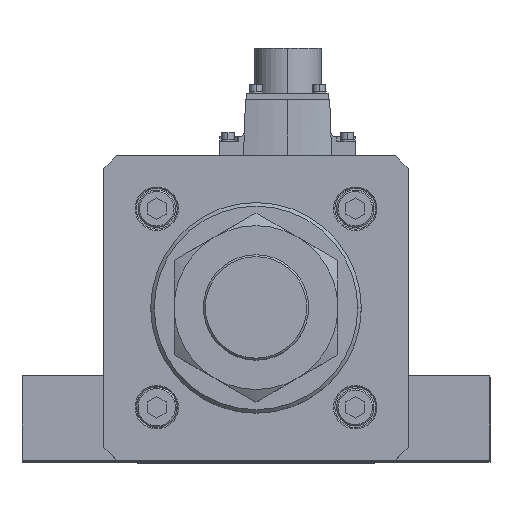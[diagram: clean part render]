
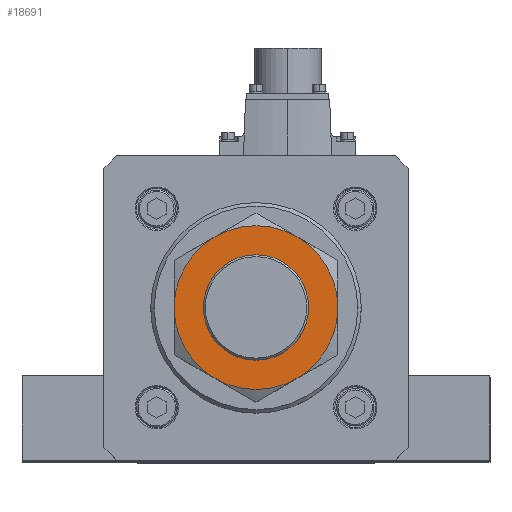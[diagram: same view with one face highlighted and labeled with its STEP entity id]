
A CAD part, top view. The second image highlights one B-rep face of the part: STEP entity #18691.
In plain terms, the highlighted planar face has unit normal (0, 0, 1).
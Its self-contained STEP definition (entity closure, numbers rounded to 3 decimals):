
#1370 = CARTESIAN_POINT ( 'NONE',  ( 0., 0., 27. ) ) ;
#1588 = DIRECTION ( 'NONE',  ( 1., 0., 0. ) ) ;
#1656 = DIRECTION ( 'NONE',  ( -1., 0., 0. ) ) ;
#2298 = VERTEX_POINT ( 'NONE', #36507 ) ;
#2450 = DIRECTION ( 'NONE',  ( 0., 0., -1. ) ) ;
#2922 = DIRECTION ( 'NONE',  ( -1., 0., 0. ) ) ;
#3208 = VERTEX_POINT ( 'NONE', #25170 ) ;
#3801 = PLANE ( 'NONE',  #13405 ) ;
#4415 = CARTESIAN_POINT ( 'NONE',  ( 0., 0., 27. ) ) ;
#4751 = CIRCLE ( 'NONE', #35648, 22.5 ) ;
#4798 = CIRCLE ( 'NONE', #20198, 35. ) ;
#5333 = DIRECTION ( 'NONE',  ( 0., 0., 1. ) ) ;
#5786 = DIRECTION ( 'NONE',  ( 0., 0., -1. ) ) ;
#6560 = CIRCLE ( 'NONE', #29074, 35. ) ;
#6989 = EDGE_CURVE ( 'NONE', #28562, #7024, #9219, .T. ) ;
#7024 = VERTEX_POINT ( 'NONE', #26561 ) ;
#7150 = DIRECTION ( 'NONE',  ( 0., 0., 1. ) ) ;
#8490 = AXIS2_PLACEMENT_3D ( 'NONE', #25427, #25164, #1656 ) ;
#8491 = CARTESIAN_POINT ( 'NONE',  ( 0., 0., 27. ) ) ;
#9219 = CIRCLE ( 'NONE', #35896, 35. ) ;
#10288 = DIRECTION ( 'NONE',  ( 0., 0., 1. ) ) ;
#10477 = DIRECTION ( 'NONE',  ( 0., 0., -1. ) ) ;
#10603 = CARTESIAN_POINT ( 'NONE',  ( 0., 0., 27. ) ) ;
#10622 = ORIENTED_EDGE ( 'NONE', *, *, #26864, .F. ) ;
#11230 = CARTESIAN_POINT ( 'NONE',  ( 0., 0., 27. ) ) ;
#13405 = AXIS2_PLACEMENT_3D ( 'NONE', #1370, #10288, #16248 ) ;
#13539 = EDGE_LOOP ( 'NONE', ( #35560, #20894 ) ) ;
#13992 = DIRECTION ( 'NONE',  ( 1., 0., 0. ) ) ;
#14338 = CIRCLE ( 'NONE', #17176, 22.5 ) ;
#14661 = EDGE_LOOP ( 'NONE', ( #22094, #33001, #10622, #25059, #21276, #36307 ) ) ;
#15016 = FACE_OUTER_BOUND ( 'NONE', #14661, .T. ) ;
#16036 = CARTESIAN_POINT ( 'NONE',  ( -17.5, 30.311, 27. ) ) ;
#16248 = DIRECTION ( 'NONE',  ( 1., 0., 0. ) ) ;
#17079 = DIRECTION ( 'NONE',  ( 0., 0., -1. ) ) ;
#17176 = AXIS2_PLACEMENT_3D ( 'NONE', #26005, #5333, #13992 ) ;
#18691 = ADVANCED_FACE ( 'NONE', ( #15016, #34469 ), #3801, .T. ) ;
#19681 = CARTESIAN_POINT ( 'NONE',  ( -22.5, 0., 27. ) ) ;
#19769 = CARTESIAN_POINT ( 'NONE',  ( 0., 0., 27. ) ) ;
#20196 = CIRCLE ( 'NONE', #25356, 35. ) ;
#20198 = AXIS2_PLACEMENT_3D ( 'NONE', #11230, #2450, #31665 ) ;
#20361 = EDGE_CURVE ( 'NONE', #3208, #35975, #6560, .T. ) ;
#20894 = ORIENTED_EDGE ( 'NONE', *, *, #27470, .F. ) ;
#21276 = ORIENTED_EDGE ( 'NONE', *, *, #6989, .F. ) ;
#22094 = ORIENTED_EDGE ( 'NONE', *, *, #20361, .F. ) ;
#22613 = DIRECTION ( 'NONE',  ( -1., 0., 0. ) ) ;
#25059 = ORIENTED_EDGE ( 'NONE', *, *, #28136, .F. ) ;
#25164 = DIRECTION ( 'NONE',  ( 0., 0., -1. ) ) ;
#25170 = CARTESIAN_POINT ( 'NONE',  ( 35., 0., 27. ) ) ;
#25336 = DIRECTION ( 'NONE',  ( -1., 0., 0. ) ) ;
#25356 = AXIS2_PLACEMENT_3D ( 'NONE', #19769, #37227, #34368 ) ;
#25427 = CARTESIAN_POINT ( 'NONE',  ( 0., 0., 27. ) ) ;
#25800 = EDGE_CURVE ( 'NONE', #25999, #2298, #4751, .T. ) ;
#25999 = VERTEX_POINT ( 'NONE', #19681 ) ;
#26005 = CARTESIAN_POINT ( 'NONE',  ( 0., 0., 27. ) ) ;
#26561 = CARTESIAN_POINT ( 'NONE',  ( -35., 0., 27. ) ) ;
#26864 = EDGE_CURVE ( 'NONE', #32025, #32312, #29609, .T. ) ;
#27316 = AXIS2_PLACEMENT_3D ( 'NONE', #37369, #17079, #22613 ) ;
#27470 = EDGE_CURVE ( 'NONE', #2298, #25999, #14338, .T. ) ;
#28136 = EDGE_CURVE ( 'NONE', #7024, #32025, #37410, .T. ) ;
#28562 = VERTEX_POINT ( 'NONE', #34086 ) ;
#29074 = AXIS2_PLACEMENT_3D ( 'NONE', #10603, #10477, #25336 ) ;
#29609 = CIRCLE ( 'NONE', #8490, 35. ) ;
#31665 = DIRECTION ( 'NONE',  ( -1., 0., 0. ) ) ;
#32025 = VERTEX_POINT ( 'NONE', #16036 ) ;
#32312 = VERTEX_POINT ( 'NONE', #34899 ) ;
#33001 = ORIENTED_EDGE ( 'NONE', *, *, #38291, .F. ) ;
#34086 = CARTESIAN_POINT ( 'NONE',  ( -17.5, -30.311, 27. ) ) ;
#34368 = DIRECTION ( 'NONE',  ( -1., 0., 0. ) ) ;
#34469 = FACE_BOUND ( 'NONE', #13539, .T. ) ;
#34899 = CARTESIAN_POINT ( 'NONE',  ( 17.5, 30.311, 27. ) ) ;
#35560 = ORIENTED_EDGE ( 'NONE', *, *, #25800, .F. ) ;
#35648 = AXIS2_PLACEMENT_3D ( 'NONE', #4415, #7150, #1588 ) ;
#35896 = AXIS2_PLACEMENT_3D ( 'NONE', #8491, #5786, #2922 ) ;
#35975 = VERTEX_POINT ( 'NONE', #36420 ) ;
#36307 = ORIENTED_EDGE ( 'NONE', *, *, #36643, .F. ) ;
#36420 = CARTESIAN_POINT ( 'NONE',  ( 17.5, -30.311, 27. ) ) ;
#36507 = CARTESIAN_POINT ( 'NONE',  ( 22.5, 0., 27. ) ) ;
#36643 = EDGE_CURVE ( 'NONE', #35975, #28562, #20196, .T. ) ;
#37227 = DIRECTION ( 'NONE',  ( 0., 0., -1. ) ) ;
#37369 = CARTESIAN_POINT ( 'NONE',  ( 0., 0., 27. ) ) ;
#37410 = CIRCLE ( 'NONE', #27316, 35. ) ;
#38291 = EDGE_CURVE ( 'NONE', #32312, #3208, #4798, .T. ) ;
